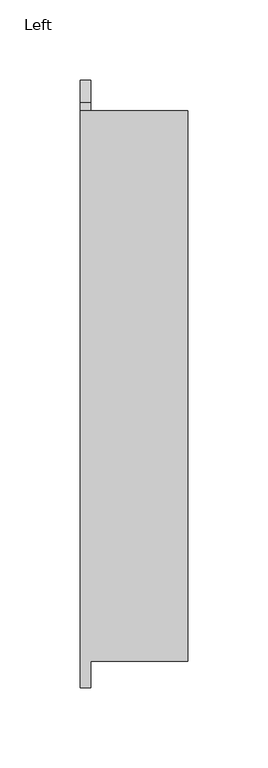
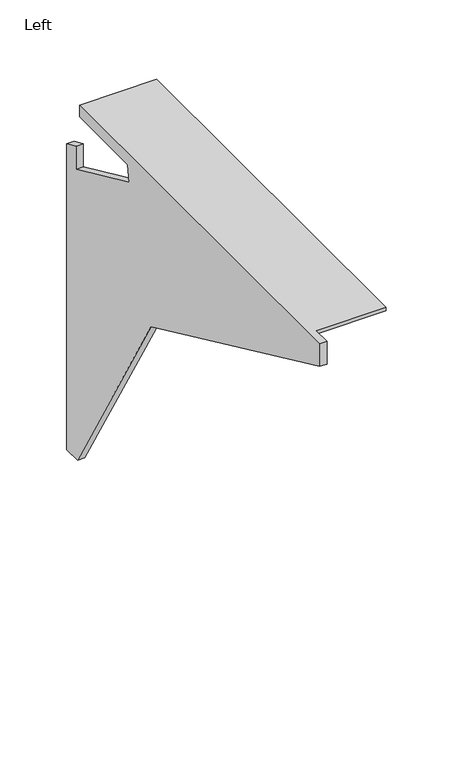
"""IFC4 building model written with IfcOpenShell, lengths in millimetres: furniture geometry, Steelcase - Answer Solution - Panel Mounted Universal Support - Cantilever : Left."""

from ifc_helpers import new_model, si_unit, origin, place, context, project, spatial, faceted_brep, source, transform, mapped, element, save


def left_3864d0c0(model_context):
    return source(origin(), model_context, "Body", "Brep", [
        faceted_brep([(6.35, -378.005924, 693.7373789), (6.35, -378.005924, 673.1603645), (6.35, -126.1876465, 556.5973486), (6.35, -15.8528841, 367.9598803), (6.35, 0.0, 367.9598803), (6.35, 0.0, 646.9179983), (6.35, -13.564579, 653.112751), (6.35, -13.564579, 631.915353), (6.35, -93.4246754, 668.6474859), (6.35, -90.6996964, 682.9788786), (6.35, -18.8652729, 683.2686138), (6.35, -18.8652729, 690.6147928), (6.35, -361.7652002, 690.6147928), (6.35, -361.7652002, 693.7373789), (0.0003876, -18.8652729, 693.7373789), (0.0003876, -18.8652729, 683.2686138), (0.0003876, -90.6996964, 682.9788786), (0.0003876, -93.4246754, 668.6474859), (0.0003876, -13.564579, 631.915353), (0.0003876, -13.564579, 653.112751), (0.0003876, 0.0, 646.9179983), (0.0003876, 0.0, 367.9598803), (0.0003876, -15.8528841, 367.9598803), (0.0003876, -126.1876465, 556.5973486), (0.0003876, -378.005924, 673.1603645), (0.0003876, -378.005924, 693.7373789), (66.802, -361.7652002, 693.7373789), (66.802, -18.8651276, 693.7373789), (66.802, -18.8652729, 690.6147928), (66.802, -361.7652002, 690.6147928)], [[[0, 1, 2, 3, 4, 5, 6, 7, 8, 9, 10, 11, 12, 13]], [[14, 15, 16, 17, 18, 19, 20, 21, 22, 23, 24, 25]], [[25, 0, 13, 26, 27, 14]], [[1, 0, 25, 24]], [[2, 1, 24, 23]], [[3, 2, 23, 22]], [[4, 3, 22, 21]], [[5, 4, 21, 20]], [[6, 5, 20, 19]], [[7, 6, 19, 18]], [[8, 7, 18, 17]], [[9, 8, 17, 16]], [[10, 9, 16, 15]], [[14, 27, 28, 11, 10, 15]], [[28, 29, 12, 11]], [[29, 26, 13, 12]], [[27, 26, 29, 28]]]),
    ])


if __name__ == "__main__":
    model = new_model("IFC4")
    model_context = context("Model", 3, world=origin())
    ifc_project = project(units=[si_unit("LENGTHUNIT", "METRE", prefix="MILLI")], contexts=[model_context])
    site = spatial("IfcSite", under=ifc_project)
    building = spatial("IfcBuilding", under=site)
    placement = place(None, origin())
    left_shape = left_3864d0c0(model_context)
    element("IfcFurniture", 1, ObjectType="Steelcase - Answer Solution - Panel Mounted Universal Support - Cantilever : Left", at=placement, inside=building, context=model_context, shape_type="MappedRepresentation", body=[
        mapped(left_shape, transform((0.0, 0.0, 0.0), x_axis=(1.0, 0.0, 0.0), y_axis=(0.0, 1.0, 0.0), z_axis=(0.0, 0.0, 1.0))),
    ])
    save(model, "model.ifc")
